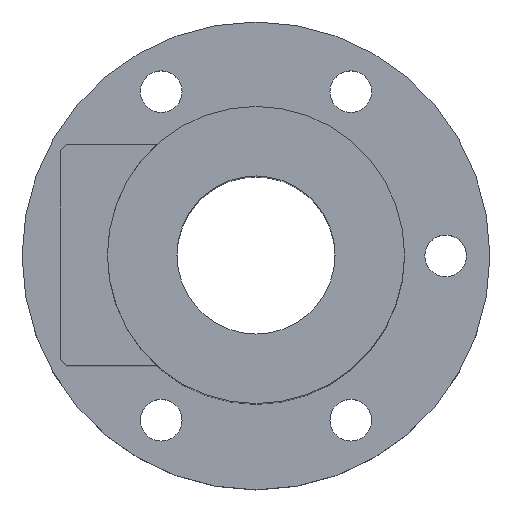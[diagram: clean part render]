
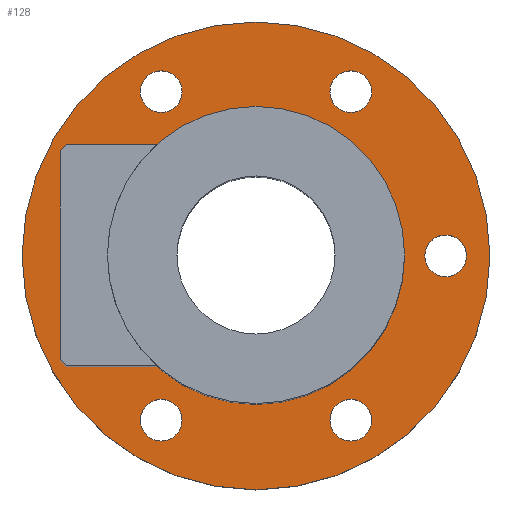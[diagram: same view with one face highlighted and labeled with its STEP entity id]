
A CAD part, top view. The second image highlights one B-rep face of the part: STEP entity #128.
In plain terms, the highlighted planar face has unit normal (0, 0, 1).
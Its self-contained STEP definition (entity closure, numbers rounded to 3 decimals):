
#97=PLANE('',#515);
#112=FACE_OUTER_BOUND('',#251,.T.);
#128=ADVANCED_FACE('',(#203,#204,#205,#112,#206,#207,#208),#97,.T.);
#203=FACE_BOUND('',#248,.T.);
#204=FACE_BOUND('',#249,.T.);
#205=FACE_BOUND('',#250,.T.);
#206=FACE_BOUND('',#252,.T.);
#207=FACE_BOUND('',#253,.T.);
#208=FACE_BOUND('',#254,.T.);
#248=EDGE_LOOP('',(#311));
#249=EDGE_LOOP('',(#312));
#250=EDGE_LOOP('',(#313));
#251=EDGE_LOOP('',(#314));
#252=EDGE_LOOP('',(#315));
#253=EDGE_LOOP('',(#316));
#254=EDGE_LOOP('',(#317));
#311=ORIENTED_EDGE('',*,*,#437,.F.);
#312=ORIENTED_EDGE('',*,*,#438,.F.);
#313=ORIENTED_EDGE('',*,*,#432,.F.);
#314=ORIENTED_EDGE('',*,*,#439,.T.);
#315=ORIENTED_EDGE('',*,*,#440,.F.);
#316=ORIENTED_EDGE('',*,*,#441,.F.);
#317=ORIENTED_EDGE('',*,*,#442,.F.);
#394=VERTEX_POINT('',#694);
#399=VERTEX_POINT('',#705);
#400=VERTEX_POINT('',#707);
#401=VERTEX_POINT('',#709);
#402=VERTEX_POINT('',#711);
#403=VERTEX_POINT('',#713);
#404=VERTEX_POINT('',#715);
#432=EDGE_CURVE('',#394,#394,#476,.T.);
#437=EDGE_CURVE('',#399,#399,#479,.T.);
#438=EDGE_CURVE('',#400,#400,#480,.T.);
#439=EDGE_CURVE('',#401,#401,#481,.T.);
#440=EDGE_CURVE('',#402,#402,#482,.T.);
#441=EDGE_CURVE('',#403,#403,#483,.T.);
#442=EDGE_CURVE('',#404,#404,#484,.T.);
#476=CIRCLE('',#505,23.5);
#479=CIRCLE('',#509,3.3);
#480=CIRCLE('',#510,3.3);
#481=CIRCLE('',#511,37.);
#482=CIRCLE('',#512,3.3);
#483=CIRCLE('',#513,3.3);
#484=CIRCLE('',#514,3.3);
#505=AXIS2_PLACEMENT_3D('',#693,#564,#565);
#509=AXIS2_PLACEMENT_3D('',#704,#574,#575);
#510=AXIS2_PLACEMENT_3D('',#706,#576,#577);
#511=AXIS2_PLACEMENT_3D('',#708,#578,#579);
#512=AXIS2_PLACEMENT_3D('',#710,#580,#581);
#513=AXIS2_PLACEMENT_3D('',#712,#582,#583);
#514=AXIS2_PLACEMENT_3D('',#714,#584,#585);
#515=AXIS2_PLACEMENT_3D('',#716,#586,#587);
#564=DIRECTION('',(0.,0.,1.));
#565=DIRECTION('',(1.,0.,0.));
#574=DIRECTION('',(0.,0.,1.));
#575=DIRECTION('',(-0.5,-0.866,0.));
#576=DIRECTION('',(0.,0.,1.));
#577=DIRECTION('',(0.5,0.866,0.));
#578=DIRECTION('',(0.,0.,1.));
#579=DIRECTION('',(1.,0.,0.));
#580=DIRECTION('',(0.,0.,1.));
#581=DIRECTION('',(1.,0.,0.));
#582=DIRECTION('',(0.,0.,1.));
#583=DIRECTION('',(-1.,0.,0.));
#584=DIRECTION('',(0.,0.,1.));
#585=DIRECTION('',(0.5,-0.866,0.));
#586=DIRECTION('',(0.,0.,1.));
#587=DIRECTION('',(1.,0.,0.));
#693=CARTESIAN_POINT('',(0.,0.,15.));
#694=CARTESIAN_POINT('',(23.5,0.,15.));
#704=CARTESIAN_POINT('',(15.,-25.981,15.));
#705=CARTESIAN_POINT('',(13.35,-28.839,15.));
#706=CARTESIAN_POINT('',(-15.,25.981,15.));
#707=CARTESIAN_POINT('',(-13.35,28.839,15.));
#708=CARTESIAN_POINT('',(0.,0.,15.));
#709=CARTESIAN_POINT('',(37.,0.,15.));
#710=CARTESIAN_POINT('',(15.,25.981,15.));
#711=CARTESIAN_POINT('',(18.3,25.981,15.));
#712=CARTESIAN_POINT('',(-15.,-25.981,15.));
#713=CARTESIAN_POINT('',(-18.3,-25.981,15.));
#714=CARTESIAN_POINT('',(30.,0.,15.));
#715=CARTESIAN_POINT('',(31.65,-2.858,15.));
#716=CARTESIAN_POINT('',(0.,0.,15.));
